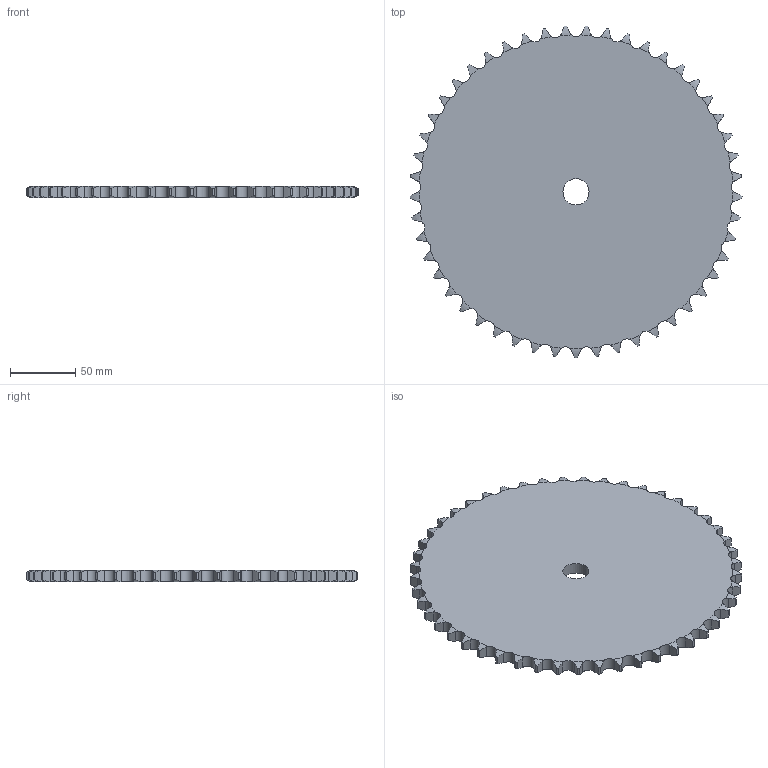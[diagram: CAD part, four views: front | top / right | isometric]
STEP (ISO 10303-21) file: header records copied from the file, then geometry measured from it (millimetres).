
FILE_DESCRIPTION((''),'2;1');
FILE_NAME('500-301-0049_PRT','2021-02-12T',('Brieden'),('Brieden'),'PRO/ENGINEER BY PARAMETRIC TECHNOLOGY CORPORATION, 2010160','PRO/ENGINEER BY PARAMETRIC TECHNOLOGY CORPORATION, 2010160','');
FILE_SCHEMA(('AUTOMOTIVE_DESIGN { 1 0 10303 214 1 1 1 1 }'));
Length unit declared in the file: millimetre
Products named in the file (1): 500-301-0049_PRT
Bounding box: 253.93 x 253.8 x 9.1 mm (x, y, z)
Volume: 420553.6 mm3; surface area: 103335.2 mm2
Topology: 1 solids, 1 shells, 298 faces, 888 edges, 592 vertices
Faces by surface type: cylinder 198, torus 98, plane 2
Entity records: 14782 total; most frequent: CARTESIAN_POINT 4519, ORIENTED_EDGE 1776, DIRECTION 1390, PRESENTATION_STYLE_ASSIGNMENT 889, STYLED_ITEM 889, CURVE_STYLE 888, EDGE_CURVE 888, AXIS2_PLACEMENT_3D 596
